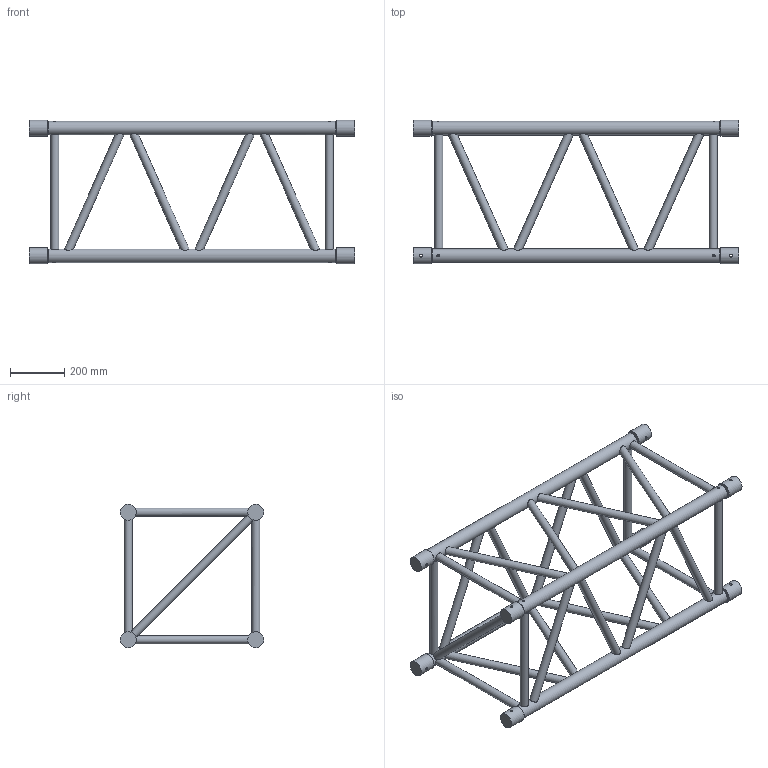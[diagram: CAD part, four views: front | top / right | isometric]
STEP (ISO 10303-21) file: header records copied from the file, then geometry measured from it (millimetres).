
FILE_DESCRIPTION(/* description */ (''),/* implementation_level */ '2;1');
FILE_NAME(/* name */ 'M:\Symbolen_NIEUW\STP\52-er truss\111110106.stp',/* time_stamp */ '2015-04-22T15:04:33+02:00',/* author */ ('Stephan'),/* organization */ (''),/* preprocessor_version */ 'ST-DEVELOPER v15.6',/* originating_system */ 'Autodesk Inventor 2015',/* authorisation */ '');
FILE_SCHEMA (('AUTOMOTIVE_DESIGN { 1 0 10303 214 3 1 1 }'));
Length unit declared in the file: millimetre
Products named in the file (1): 160023913
Bounding box: 1200 x 528.8 x 528.8 mm (x, y, z)
Volume: 18246440.4 mm3; surface area: 1946303.5 mm2
Topology: 5 solids, 6 shells, 298 faces, 718 edges, 440 vertices
Faces by surface type: plane 164, cylinder 94, cone 40
Full cylindrical faces by diameter (mm): 10 x8, 30 x26, 50 x4, 58.8 x8
Entity records: 10669 total; most frequent: CARTESIAN_POINT 3907, DIRECTION 1366, ORIENTED_EDGE 1232, AXIS2_PLACEMENT_3D 619, EDGE_CURVE 592, EDGE_LOOP 424, VERTEX_POINT 392, STYLED_ITEM 283
